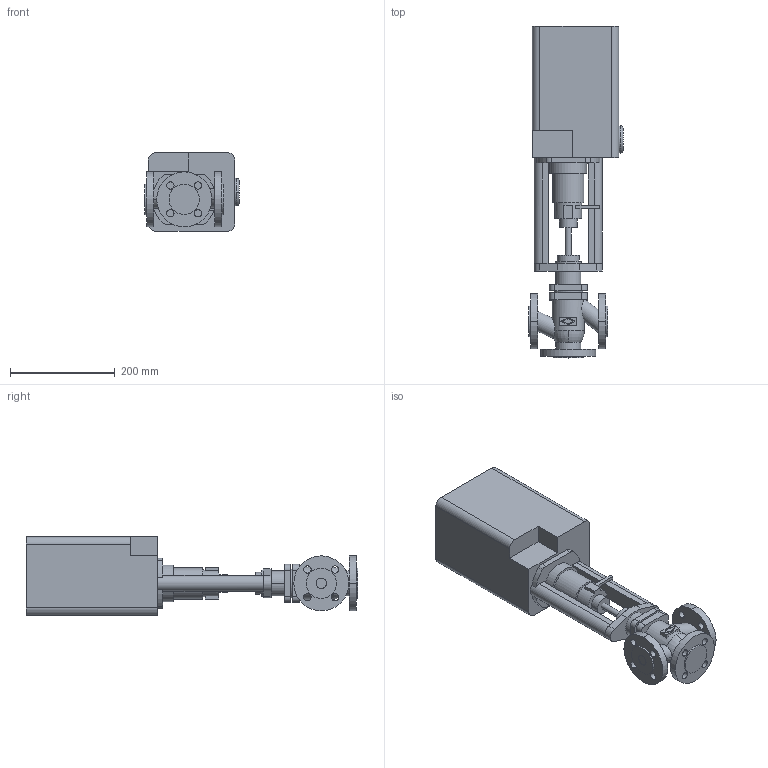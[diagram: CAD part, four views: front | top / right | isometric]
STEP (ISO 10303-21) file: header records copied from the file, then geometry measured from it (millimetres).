
FILE_DESCRIPTION(('OneSpaceDesigner STEP Export'),'2;1');
FILE_NAME('c000002376.stp','2006-09-19T11:51:07',(''),(''),'OneSpace Designer STEP processor for AP214 (Solid Model)','OneSpace Designer 13.20A 18-Aug-2005 (C) CoCreate Software GmbH','');
FILE_SCHEMA(('AUTOMOTIVE_DESIGN { 1 0 10303 214 1 1 1 1 }'));
Length unit declared in the file: millimetre
Products named in the file (2): 1; 2
Bounding box: 179.6 x 634 x 150 mm (x, y, z)
Volume: 7730355.1 mm3; surface area: 401462.7 mm2
Topology: 2 solids, 2 shells, 192 faces, 486 edges, 324 vertices
Faces by surface type: cylinder 94, plane 94, torus 4
Entity records: 5506 total; most frequent: CARTESIAN_POINT 1029, ORIENTED_EDGE 972, DIRECTION 851, EDGE_CURVE 486, VERTEX_POINT 324, AXIS2_PLACEMENT_3D 294, VECTOR 263, LINE 263
